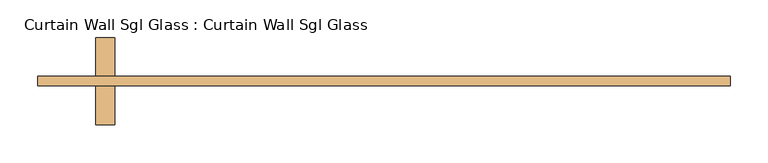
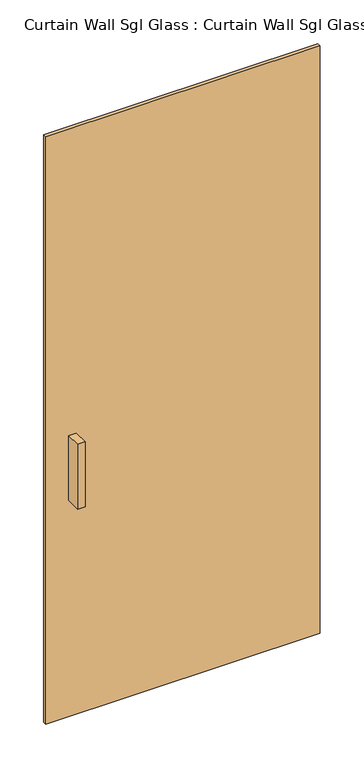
"""IFC4 building model written with IfcOpenShell, lengths in millimetres: door geometry, Curtain Wall Sgl Glass : Curtain Wall Sgl Glass."""

import ifcopenshell
import ifcopenshell.guid

model = None  # the IFC model being written
_history = None  # IfcOwnerHistory: only IFC2X3 demands one
_inside = {}  # id of a spatial element -> (the spatial element, [elements in it])
_under = {}  # id of a project, library or spatial element -> (it, [spatial elements below it])
_declared = {}  # id of a project -> (the project, [libraries it declares])
_typed = {}  # id of a type object -> (the type object, [elements of that type])
_made_of = {}  # id of a material, layer set ... -> (it, [elements and type objects made of it])


def new_model(schema):
    """Start an empty IFC model of exactly this schema.

    Asked for "IFC4X3", IfcOpenShell would pick the latest addendum, in which some entities
    have other attributes; the version numbers below select the first issue.
    IFC2X3 requires an IfcOwnerHistory on every rooted entity: one is made here for all.
    """
    global model, _history
    if schema == "IFC4X3":
        model = ifcopenshell.file(schema_version=(4, 3, 0, 0))
    else:
        model = ifcopenshell.file(schema=schema)
    _inside.clear()
    _under.clear()
    _declared.clear()
    _typed.clear()
    _made_of.clear()
    _history = None
    if model.schema == "IFC2X3":
        org = make("IfcOrganization", Name="unknown")
        user = make(
            "IfcPersonAndOrganization",
            ThePerson=make("IfcPerson", FamilyName="unknown"),
            TheOrganization=org,
        )
        app = make(
            "IfcApplication",
            ApplicationDeveloper=org,
            Version="unknown",
            ApplicationFullName="unknown",
            ApplicationIdentifier="unknown",
        )
        _history = make(
            "IfcOwnerHistory",
            OwningUser=user,
            OwningApplication=app,
            ChangeAction="ADDED",
            CreationDate=0,
        )
    return model


def make(cls, **values):
    """One entity of the class cls with the attributes given. An attribute that is None is left unset."""
    return model.create_entity(
        cls, **{name: value for name, value in values.items() if value is not None}
    )


def rooted(cls, **values):
    """An entity with a GlobalId (a new one), such as an element, a storey or a relation."""
    return make(cls, GlobalId=ifcopenshell.guid.new(), OwnerHistory=_history, **values)


def si_unit(unit_type, name, prefix=None):
    """IfcSIUnit, for example si_unit("LENGTHUNIT", "METRE", prefix="MILLI")."""
    return make("IfcSIUnit", UnitType=unit_type, Prefix=prefix, Name=name)


def assignment(units):
    """IfcUnitAssignment: the units of a project."""
    return None if units is None else make("IfcUnitAssignment", Units=units)


def point(xyz):
    """IfcCartesianPoint."""
    return None if xyz is None else make("IfcCartesianPoint", Coordinates=xyz)


def direction(xyz):
    """IfcDirection."""
    return None if xyz is None else make("IfcDirection", DirectionRatios=xyz)


def frame(location, z_axis=None, x_axis=None):
    """IfcAxis2Placement3D, a coordinate frame: its origin and axes. An axis left out is left unset."""
    return make(
        "IfcAxis2Placement3D",
        Location=point(location),
        Axis=direction(z_axis),
        RefDirection=direction(x_axis),
    )


def origin():
    """The frame at (0, 0, 0) with its axes left unset."""
    return frame((0.0, 0.0, 0.0))


def origin_with_axes():
    """The frame at (0, 0, 0) with the z axis (0, 0, 1) and the x axis (1, 0, 0) written out."""
    return frame((0.0, 0.0, 0.0), z_axis=(0.0, 0.0, 1.0), x_axis=(1.0, 0.0, 0.0))


def place(relative_to, where):
    """IfcLocalPlacement: puts the frame where relative to a parent placement (None: the world)."""
    return make(
        "IfcLocalPlacement", PlacementRelTo=relative_to, RelativePlacement=where
    )


def context(
    kind, dimensions, precision=None, world=None, true_north=None, identifier=None
):
    """IfcGeometricRepresentationContext, for example the 3D "Model" context."""
    return make(
        "IfcGeometricRepresentationContext",
        ContextIdentifier=identifier,
        ContextType=kind,
        CoordinateSpaceDimension=dimensions,
        Precision=precision,
        WorldCoordinateSystem=world,
        TrueNorth=true_north,
    )


def project(units=None, contexts=None):
    """IfcProject with its units and contexts."""
    return rooted(
        "IfcProject",
        Name="project",
        RepresentationContexts=contexts,
        UnitsInContext=assignment(units),
    )


def spatial(cls, under=None, at=None, **own):
    """A site, building, storey or space (cls), placed at a placement, below another one or the project."""
    s = rooted(cls, ObjectPlacement=at, **own)
    if under is not None:
        _under.setdefault(under.id(), (under, []))[1].append(s)
    return s


def polyline(points):
    """IfcPolyline through the points."""
    return make("IfcPolyline", Points=[point(p) for p in points])


def outline(outer, holes=None, kind="AREA"):
    """IfcArbitraryClosedProfileDef: a profile drawn as a closed curve; with holes, ...WithVoids."""
    if holes is None:
        return make("IfcArbitraryClosedProfileDef", ProfileType=kind, OuterCurve=outer)
    return make(
        "IfcArbitraryProfileDefWithVoids",
        ProfileType=kind,
        OuterCurve=outer,
        InnerCurves=holes,
    )


def extrude(swept, where, along, depth):
    """IfcExtrudedAreaSolid: the profile swept, set in the frame where, extruded along a direction by depth."""
    return make(
        "IfcExtrudedAreaSolid",
        SweptArea=swept,
        Position=where,
        ExtrudedDirection=direction(along),
        Depth=depth,
    )


def shape(context_of_items, identifier, shape_type, items):
    """IfcShapeRepresentation: the items that make up one representation, for example the "Body"."""
    return make(
        "IfcShapeRepresentation",
        ContextOfItems=context_of_items,
        RepresentationIdentifier=identifier,
        RepresentationType=shape_type,
        Items=items,
    )


def source(mapping_origin, context_of_items, identifier, shape_type, items):
    """IfcRepresentationMap: a shape defined once, which mapped items show again and again."""
    return make(
        "IfcRepresentationMap",
        MappingOrigin=mapping_origin,
        MappedRepresentation=shape(context_of_items, identifier, shape_type, items),
    )


def transform(
    local_origin,
    x_axis=None,
    y_axis=None,
    z_axis=None,
    scale=None,
    scale2=None,
    scale3=None,
    uniform=True,
):
    """IfcCartesianTransformationOperator3D, or its non-uniform kind. x_axis, y_axis, z_axis: its Axis1, 2, 3."""
    if uniform:
        return make(
            "IfcCartesianTransformationOperator3D",
            Axis1=direction(x_axis),
            Axis2=direction(y_axis),
            LocalOrigin=point(local_origin),
            Scale=scale,
            Axis3=direction(z_axis),
        )
    return make(
        "IfcCartesianTransformationOperator3DnonUniform",
        Axis1=direction(x_axis),
        Axis2=direction(y_axis),
        LocalOrigin=point(local_origin),
        Scale=scale,
        Axis3=direction(z_axis),
        Scale2=scale2,
        Scale3=scale3,
    )


def mapped(mapping_source, mapping_target):
    """IfcMappedItem: shows the shape of a source again, moved by a transform."""
    return make(
        "IfcMappedItem", MappingSource=mapping_source, MappingTarget=mapping_target
    )


def made_of(thing, what):
    """Note that an element or type object is made of a material, layer set ...; save() writes the relation."""
    if what is not None:
        _made_of.setdefault(what.id(), (what, []))[1].append(thing)
    return thing


def element(
    cls,
    number,
    at=None,
    inside=None,
    cuts=None,
    type_object=None,
    material=None,
    context=None,
    identifier="Body",
    shape_type=None,
    held_by="IfcProductDefinitionShape",
    body=None,
    shapes=None,
    **own,
):
    """One element of the class cls, such as IfcWall. Its Tag is "e" and its number.

    at: its placement. inside: the storey or other place that contains it. cuts: it is an
    opening in that element (IfcRelVoidsElement). A single representation is given by context,
    identifier, shape_type and body (its items); several are given by shapes. held_by: the class
    of the entity that holds the representations. save() writes the other relations.
    """
    e = rooted(cls, Tag="e%d" % number, ObjectPlacement=at, **own)
    if body is not None:
        shapes = [shape(context, identifier, shape_type, body)]
    if shapes is not None:
        e.Representation = make(held_by, Representations=shapes)
    if inside is not None:
        _inside.setdefault(inside.id(), (inside, []))[1].append(e)
    if cuts is not None:
        rooted(
            "IfcRelVoidsElement", RelatingBuildingElement=cuts, RelatedOpeningElement=e
        )
    if type_object is not None:
        _typed.setdefault(type_object.id(), (type_object, []))[1].append(e)
    return made_of(e, material)


def aggregate(whole, parts):
    """IfcRelAggregates: a whole, such as a stair, and the parts it consists of."""
    return rooted("IfcRelAggregates", RelatingObject=whole, RelatedObjects=parts)


def save(model, path):
    """Write the relations noted so far, then the file.

    IfcRelAggregates (storeys below a building ...), IfcRelContainedInSpatialStructure (elements
    in a storey), IfcRelDefinesByType, IfcRelAssociatesMaterial and IfcRelDeclares: one each for
    every whole, place, type object, material and project.
    """
    for whole, parts in _under.values():
        aggregate(whole, parts)
    for where, things in _inside.values():
        rooted(
            "IfcRelContainedInSpatialStructure",
            RelatedElements=things,
            RelatingStructure=where,
        )
    for kind, things in _typed.values():
        rooted("IfcRelDefinesByType", RelatedObjects=things, RelatingType=kind)
    for what, things in _made_of.values():
        rooted("IfcRelAssociatesMaterial", RelatedObjects=things, RelatingMaterial=what)
    for by, libraries in _declared.values():
        rooted("IfcRelDeclares", RelatingContext=by, RelatedDefinitions=libraries)
    model.write(path)


def curtain_wall_sgl_glass_curtain_wall_sgl_glass_8b7e7ef7(model_context):
    return source(origin(), model_context, "Body", "SweptSolid", [
        extrude(outline(polyline([(-355.6, -12.7), (-381.0, -12.7), (-381.0, 38.1), (-355.6, 38.1), (-355.6, -12.7)])), frame((0.0, 0.0, 762.0), z_axis=(0.0, 0.0, 1.0), x_axis=(1.0, 0.0, 0.0)), (0.0, 0.0, 1.0), 228.6),
        extrude(outline(polyline([(-381.0, 101.6), (-355.6, 101.6), (-355.6, 50.8), (-381.0, 50.8), (-381.0, 101.6)])), frame((0.0, 0.0, 762.0), z_axis=(0.0, 0.0, 1.0), x_axis=(1.0, 0.0, 0.0)), (0.0, 0.0, 1.0), 228.6),
        extrude(outline(polyline([(457.2, 50.8), (457.2, 38.1), (-457.2, 38.1), (-457.2, 50.8), (457.2, 50.8)])), origin_with_axes(), (0.0, 0.0, 1.0), 2070.1),
    ])


if __name__ == "__main__":
    model = new_model("IFC4")
    model_context = context("Model", 3, world=origin())
    ifc_project = project(units=[si_unit("LENGTHUNIT", "METRE", prefix="MILLI")], contexts=[model_context])
    site = spatial("IfcSite", under=ifc_project)
    building = spatial("IfcBuilding", under=site)
    placement = place(None, origin())
    curtain_wall_sgl_glass_curtain_wall_sgl_glass_shape = curtain_wall_sgl_glass_curtain_wall_sgl_glass_8b7e7ef7(model_context)
    element("IfcDoor", 1, ObjectType="Curtain Wall Sgl Glass : Curtain Wall Sgl Glass", at=placement, inside=building, context=model_context, shape_type="MappedRepresentation", body=[
        mapped(curtain_wall_sgl_glass_curtain_wall_sgl_glass_shape, transform((0.0, 0.0, 0.0), x_axis=(1.0, 0.0, 0.0), y_axis=(0.0, 1.0, 0.0), z_axis=(0.0, 0.0, 1.0))),
    ])
    save(model, "model.ifc")
